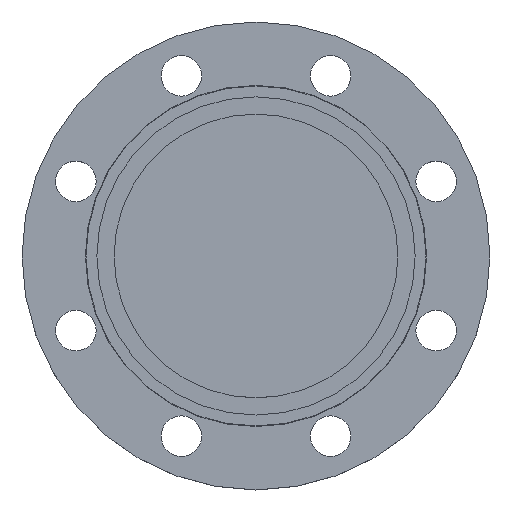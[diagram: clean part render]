
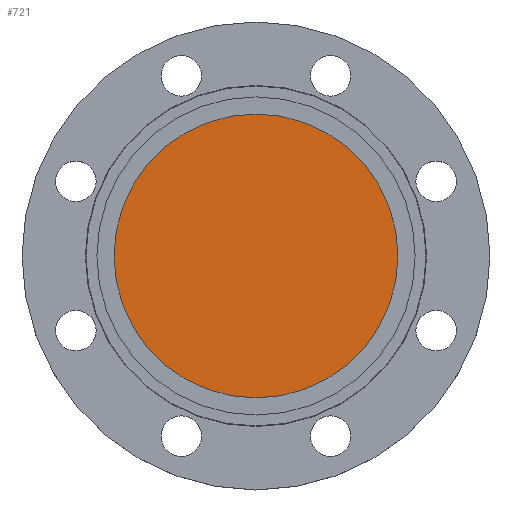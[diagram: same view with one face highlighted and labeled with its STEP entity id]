
A CAD part, top view. The second image highlights one B-rep face of the part: STEP entity #721.
In plain terms, the highlighted planar face has unit normal (0, 0, 1).
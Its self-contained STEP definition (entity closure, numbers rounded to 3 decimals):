
#123 = CARTESIAN_POINT ( 'NONE',  ( -91., 0., 0. ) ) ;
#133 = CARTESIAN_POINT ( 'NONE',  ( 91., 0., 0. ) ) ;
#165 = DIRECTION ( 'NONE',  ( 1., 0., 0. ) ) ;
#166 = DIRECTION ( 'NONE',  ( 0., 0., 1. ) ) ;
#168 = CARTESIAN_POINT ( 'NONE',  ( 0., 0., 0. ) ) ;
#169 = PLANE ( 'NONE',  #735 ) ;
#170 = FACE_OUTER_BOUND ( 'NONE', #1047, .T. ) ;
#283 = EDGE_CURVE ( 'NONE', #763, #757, #397, .T. ) ;
#355 = DIRECTION ( 'NONE',  ( -1., 0., 0. ) ) ;
#357 = AXIS2_PLACEMENT_3D ( 'NONE', #419, #431, #426 ) ;
#359 = DIRECTION ( 'NONE',  ( 0., 0., -1. ) ) ;
#360 = CARTESIAN_POINT ( 'NONE',  ( 0., 0., 0. ) ) ;
#397 = CIRCLE ( 'NONE', #357, 91. ) ;
#419 = CARTESIAN_POINT ( 'NONE',  ( 0., 0., 0. ) ) ;
#426 = DIRECTION ( 'NONE',  ( -1., 0., 0. ) ) ;
#431 = DIRECTION ( 'NONE',  ( 0., 0., -1. ) ) ;
#502 = EDGE_CURVE ( 'NONE', #757, #763, #713, .T. ) ;
#713 = CIRCLE ( 'NONE', #719, 91. ) ;
#719 = AXIS2_PLACEMENT_3D ( 'NONE', #360, #359, #355 ) ;
#721 = ADVANCED_FACE ( 'NONE', ( #170 ), #169, .T. ) ;
#735 = AXIS2_PLACEMENT_3D ( 'NONE', #168, #166, #165 ) ;
#757 = VERTEX_POINT ( 'NONE', #133 ) ;
#763 = VERTEX_POINT ( 'NONE', #123 ) ;
#821 = ORIENTED_EDGE ( 'NONE', *, *, #283, .F. ) ;
#917 = ORIENTED_EDGE ( 'NONE', *, *, #502, .F. ) ;
#1047 = EDGE_LOOP ( 'NONE', ( #821, #917 ) ) ;
